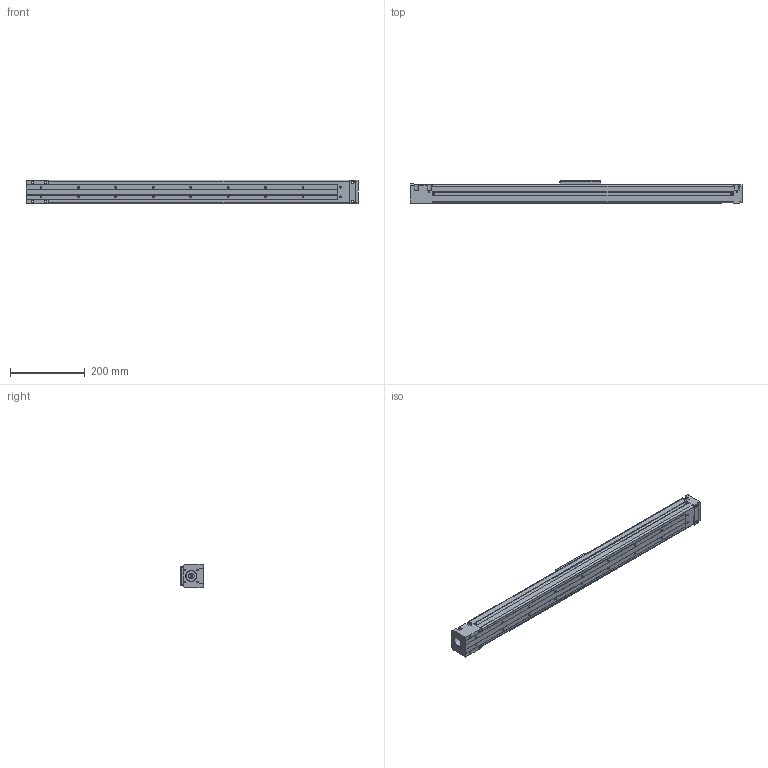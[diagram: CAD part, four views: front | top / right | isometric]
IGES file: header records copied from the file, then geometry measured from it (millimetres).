
Start section: SolidWorks IGES file using analytic representation for surfaces
Global section: file name: C:\Users\render\Documents\CAD Files\Integrated-Actuators\RL-Sreies\RL-60T\RL-60T-700.IGS; native system: SolidWorks 2009; preprocessor: SolidWorks 2009; author: render; date: 100614.133121; units: millimetre
Bounding box: 887 x 60 x 64 mm (x, y, z)
Surface area: 448710.6 mm2 (no closed solid volume)
Topology: 0 solids, 0 shells, 708 faces, 7728 edges, 7714 vertices
Faces by surface type: bspline 437, revolution 271
